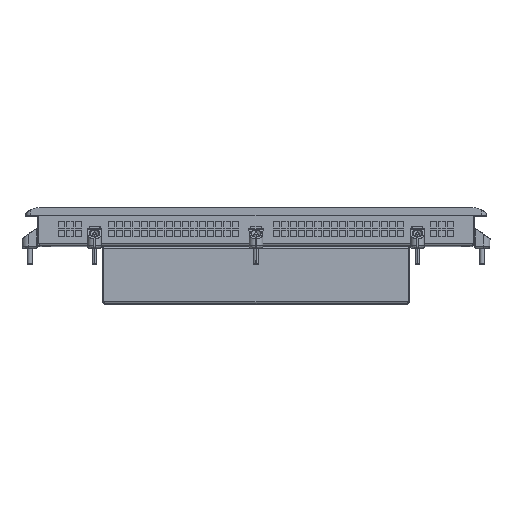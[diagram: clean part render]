
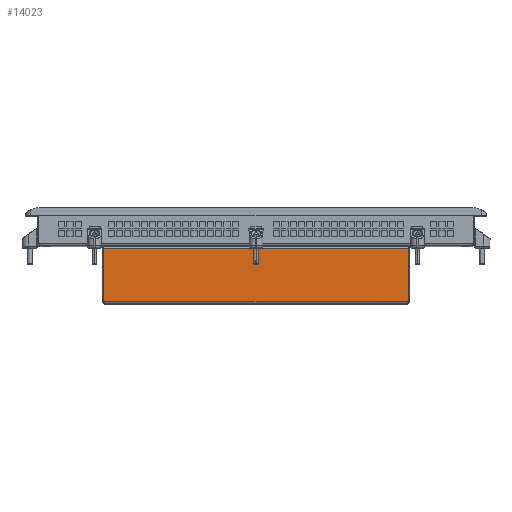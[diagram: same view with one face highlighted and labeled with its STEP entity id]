
A CAD part, top view. The second image highlights one B-rep face of the part: STEP entity #14023.
In plain terms, the highlighted planar face has unit normal (0, 0, 1) as drawn and (0, 1, 0) by its records, which use the part's own axes.
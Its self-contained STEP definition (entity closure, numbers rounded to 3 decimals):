
#14023 = ADVANCED_FACE ( 'NONE', ( #267806 ), #151833, .T. ) ;
#51961 = ORIENTED_EDGE ( 'NONE', *, *, #184920, .T. ) ;
#65697 = CARTESIAN_POINT ( 'NONE',  ( 193.32, 127.571, -7.6 ) ) ;
#66891 = DIRECTION ( 'NONE',  ( -1., 0., 0. ) ) ;
#89740 = ORIENTED_EDGE ( 'NONE', *, *, #207179, .T. ) ;
#94779 = VERTEX_POINT ( 'NONE', #297590 ) ;
#95776 = DIRECTION ( 'NONE',  ( 0., 1., 0. ) ) ;
#95979 = ORIENTED_EDGE ( 'NONE', *, *, #293520, .T. ) ;
#97021 = VECTOR ( 'NONE', #66891, 1000. ) ;
#102582 = LINE ( 'NONE', #132278, #119632 ) ;
#119632 = VECTOR ( 'NONE', #133435, 1000. ) ;
#121973 = CARTESIAN_POINT ( 'NONE',  ( 193.32, 127.571, -9.2 ) ) ;
#124300 = CARTESIAN_POINT ( 'NONE',  ( 192.52, 127.571, -7.6 ) ) ;
#130426 = CARTESIAN_POINT ( 'NONE',  ( -2.38, 127.571, -9.2 ) ) ;
#132278 = CARTESIAN_POINT ( 'NONE',  ( 193.32, 127.571, 26.5 ) ) ;
#133435 = DIRECTION ( 'NONE',  ( 1., 0., 0. ) ) ;
#140438 = AXIS2_PLACEMENT_3D ( 'NONE', #121973, #95776, #344640 ) ;
#147451 = ORIENTED_EDGE ( 'NONE', *, *, #227755, .T. ) ;
#151833 = PLANE ( 'NONE',  #140438 ) ;
#184920 = EDGE_CURVE ( 'NONE', #94779, #331240, #304151, .T. ) ;
#194228 = CARTESIAN_POINT ( 'NONE',  ( -2.38, 127.571, -7.6 ) ) ;
#203368 = VECTOR ( 'NONE', #263764, 1000. ) ;
#207179 = EDGE_CURVE ( 'NONE', #210819, #221762, #237125, .T. ) ;
#210819 = VERTEX_POINT ( 'NONE', #194228 ) ;
#211779 = DIRECTION ( 'NONE',  ( 0., 0., -1. ) ) ;
#221762 = VERTEX_POINT ( 'NONE', #335578 ) ;
#226646 = EDGE_LOOP ( 'NONE', ( #89740, #147451, #51961, #95979 ) ) ;
#227755 = EDGE_CURVE ( 'NONE', #221762, #94779, #102582, .T. ) ;
#237125 = LINE ( 'NONE', #130426, #203368 ) ;
#263764 = DIRECTION ( 'NONE',  ( 0., 0., 1. ) ) ;
#267806 = FACE_OUTER_BOUND ( 'NONE', #226646, .T. ) ;
#273990 = VECTOR ( 'NONE', #211779, 1000. ) ;
#293520 = EDGE_CURVE ( 'NONE', #331240, #210819, #314416, .T. ) ;
#297590 = CARTESIAN_POINT ( 'NONE',  ( 192.52, 127.571, 26.5 ) ) ;
#304151 = LINE ( 'NONE', #345228, #273990 ) ;
#314416 = LINE ( 'NONE', #65697, #97021 ) ;
#331240 = VERTEX_POINT ( 'NONE', #124300 ) ;
#335578 = CARTESIAN_POINT ( 'NONE',  ( -2.38, 127.571, 26.5 ) ) ;
#344640 = DIRECTION ( 'NONE',  ( 0., 0., 1. ) ) ;
#345228 = CARTESIAN_POINT ( 'NONE',  ( 192.52, 127.571, -9.2 ) ) ;
